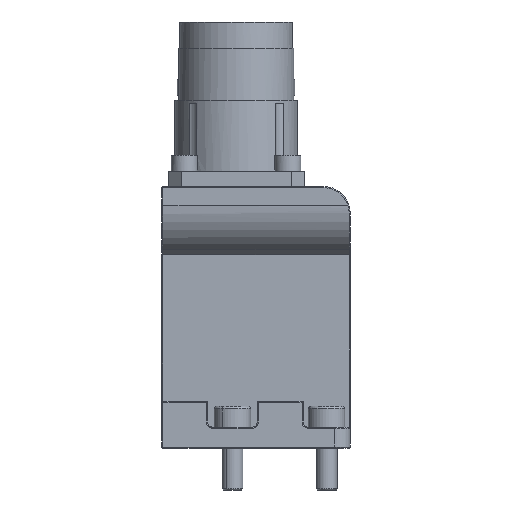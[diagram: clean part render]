
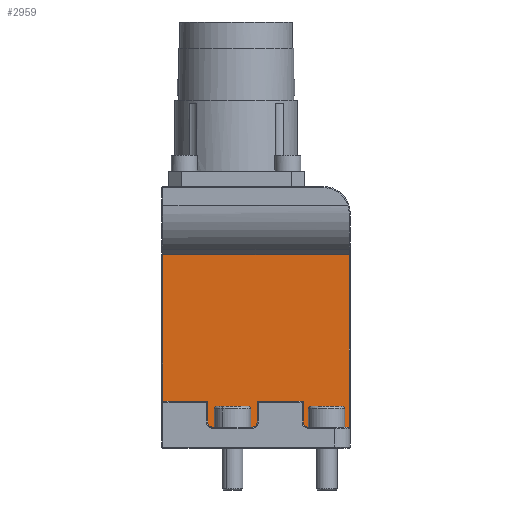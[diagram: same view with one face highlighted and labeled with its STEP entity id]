
A CAD part, left-side view. The second image highlights one B-rep face of the part: STEP entity #2959.
In plain terms, the highlighted planar face has unit normal (-1, 0, 0).
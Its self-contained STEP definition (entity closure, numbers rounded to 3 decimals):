
#300 = CARTESIAN_POINT ( 'NONE',  ( -21.25, -9., 4. ) ) ;
#442 = ORIENTED_EDGE ( 'NONE', *, *, #18668, .T. ) ;
#741 = DIRECTION ( 'NONE',  ( 0., 1., 0. ) ) ;
#903 = CARTESIAN_POINT ( 'NONE',  ( -21.25, 0.75, 5. ) ) ;
#1092 = LINE ( 'NONE', #13797, #22974 ) ;
#1339 = VERTEX_POINT ( 'NONE', #15263 ) ;
#1408 = CARTESIAN_POINT ( 'NONE',  ( -21.25, -0.25, 5. ) ) ;
#1697 = AXIS2_PLACEMENT_3D ( 'NONE', #7514, #9295, #5570 ) ;
#1710 = VECTOR ( 'NONE', #12583, 1000. ) ;
#1764 = ORIENTED_EDGE ( 'NONE', *, *, #17335, .F. ) ;
#2622 = VECTOR ( 'NONE', #13122, 1000. ) ;
#2688 = VERTEX_POINT ( 'NONE', #12433 ) ;
#2769 = DIRECTION ( 'NONE',  ( 0., 0., -1. ) ) ;
#2959 = ADVANCED_FACE ( 'NONE', ( #14393 ), #18844, .F. ) ;
#3326 = EDGE_CURVE ( 'NONE', #22455, #20741, #18157, .T. ) ;
#3343 = CARTESIAN_POINT ( 'NONE',  ( -21.25, -17.8, 4. ) ) ;
#3370 = CARTESIAN_POINT ( 'NONE',  ( -21.25, 9.25, 9. ) ) ;
#3445 = DIRECTION ( 'NONE',  ( 0., 0., 1. ) ) ;
#3549 = AXIS2_PLACEMENT_3D ( 'NONE', #903, #21522, #14039 ) ;
#3809 = LINE ( 'NONE', #300, #2622 ) ;
#3816 = DIRECTION ( 'NONE',  ( 0., 0., 1. ) ) ;
#3989 = DIRECTION ( 'NONE',  ( 0., 1., 0. ) ) ;
#5153 = CARTESIAN_POINT ( 'NONE',  ( -21.25, 9.25, 4. ) ) ;
#5270 = ORIENTED_EDGE ( 'NONE', *, *, #3326, .F. ) ;
#5343 = DIRECTION ( 'NONE',  ( 0., 0., 1. ) ) ;
#5410 = CARTESIAN_POINT ( 'NONE',  ( -21.25, -9., 5. ) ) ;
#5570 = DIRECTION ( 'NONE',  ( 0., 0., -1. ) ) ;
#5597 = ORIENTED_EDGE ( 'NONE', *, *, #23869, .T. ) ;
#5615 = VERTEX_POINT ( 'NONE', #19560 ) ;
#5829 = LINE ( 'NONE', #22733, #1710 ) ;
#5896 = AXIS2_PLACEMENT_3D ( 'NONE', #17792, #10945, #21879 ) ;
#6089 = DIRECTION ( 'NONE',  ( 0., 1., 0. ) ) ;
#6744 = VECTOR ( 'NONE', #3989, 1000. ) ;
#6830 = VECTOR ( 'NONE', #6089, 1000. ) ;
#7028 = VERTEX_POINT ( 'NONE', #16269 ) ;
#7339 = EDGE_LOOP ( 'NONE', ( #9176, #8011, #14028, #5270, #5597, #19746, #442, #7728, #10646, #18094, #18837, #1764, #23214 ) ) ;
#7514 = CARTESIAN_POINT ( 'NONE',  ( -21.25, -10., 5. ) ) ;
#7536 = CARTESIAN_POINT ( 'NONE',  ( -21.25, 17.8, 37. ) ) ;
#7558 = CARTESIAN_POINT ( 'NONE',  ( -21.25, -9., 4. ) ) ;
#7695 = DIRECTION ( 'NONE',  ( 1., 0., 0. ) ) ;
#7728 = ORIENTED_EDGE ( 'NONE', *, *, #20753, .T. ) ;
#7771 = VECTOR ( 'NONE', #741, 1000. ) ;
#8011 = ORIENTED_EDGE ( 'NONE', *, *, #18743, .T. ) ;
#8513 = VECTOR ( 'NONE', #3445, 1000. ) ;
#9088 = CARTESIAN_POINT ( 'NONE',  ( -21.25, -9., 9. ) ) ;
#9176 = ORIENTED_EDGE ( 'NONE', *, *, #14870, .T. ) ;
#9295 = DIRECTION ( 'NONE',  ( -1., 0., 0. ) ) ;
#9565 = DIRECTION ( 'NONE',  ( 0., 0., -1. ) ) ;
#9945 = LINE ( 'NONE', #14978, #6744 ) ;
#10287 = CARTESIAN_POINT ( 'NONE',  ( -21.25, -18., 9. ) ) ;
#10393 = VERTEX_POINT ( 'NONE', #1408 ) ;
#10492 = VERTEX_POINT ( 'NONE', #7536 ) ;
#10646 = ORIENTED_EDGE ( 'NONE', *, *, #14214, .F. ) ;
#10751 = AXIS2_PLACEMENT_3D ( 'NONE', #20388, #7695, #9565 ) ;
#10775 = CARTESIAN_POINT ( 'NONE',  ( -21.25, -17.8, 9. ) ) ;
#10945 = DIRECTION ( 'NONE',  ( -1., 0., 0. ) ) ;
#11469 = CARTESIAN_POINT ( 'NONE',  ( -21.25, -17.8, 37. ) ) ;
#11793 = EDGE_CURVE ( 'NONE', #15393, #2688, #14695, .T. ) ;
#12433 = CARTESIAN_POINT ( 'NONE',  ( -21.25, 8.25, 4. ) ) ;
#12453 = LINE ( 'NONE', #10287, #7771 ) ;
#12583 = DIRECTION ( 'NONE',  ( 0., 1., 0. ) ) ;
#12611 = CIRCLE ( 'NONE', #1697, 1. ) ;
#13111 = VERTEX_POINT ( 'NONE', #11469 ) ;
#13122 = DIRECTION ( 'NONE',  ( 0., 1., 0. ) ) ;
#13231 = VECTOR ( 'NONE', #22780, 1000. ) ;
#13436 = EDGE_CURVE ( 'NONE', #21375, #13111, #15809, .T. ) ;
#13595 = EDGE_CURVE ( 'NONE', #18392, #1339, #12611, .T. ) ;
#13797 = CARTESIAN_POINT ( 'NONE',  ( -21.25, 17.8, 9. ) ) ;
#14028 = ORIENTED_EDGE ( 'NONE', *, *, #24125, .F. ) ;
#14039 = DIRECTION ( 'NONE',  ( 0., 0., -1. ) ) ;
#14214 = EDGE_CURVE ( 'NONE', #20291, #7028, #9945, .T. ) ;
#14225 = CIRCLE ( 'NONE', #3549, 1. ) ;
#14393 = FACE_OUTER_BOUND ( 'NONE', #7339, .T. ) ;
#14695 = LINE ( 'NONE', #19354, #6830 ) ;
#14870 = EDGE_CURVE ( 'NONE', #13111, #10492, #5829, .T. ) ;
#14886 = CIRCLE ( 'NONE', #5896, 1. ) ;
#14978 = CARTESIAN_POINT ( 'NONE',  ( -21.25, -18., 9. ) ) ;
#15263 = CARTESIAN_POINT ( 'NONE',  ( -21.25, -10., 4. ) ) ;
#15393 = VERTEX_POINT ( 'NONE', #17828 ) ;
#15809 = LINE ( 'NONE', #10775, #8513 ) ;
#16269 = CARTESIAN_POINT ( 'NONE',  ( -21.25, -0.25, 9. ) ) ;
#17327 = VECTOR ( 'NONE', #5343, 1000. ) ;
#17335 = EDGE_CURVE ( 'NONE', #21375, #1339, #3809, .T. ) ;
#17792 = CARTESIAN_POINT ( 'NONE',  ( -21.25, 8.25, 5. ) ) ;
#17828 = CARTESIAN_POINT ( 'NONE',  ( -21.25, 0.75, 4. ) ) ;
#17926 = EDGE_CURVE ( 'NONE', #18392, #20291, #19793, .T. ) ;
#18094 = ORIENTED_EDGE ( 'NONE', *, *, #17926, .F. ) ;
#18157 = LINE ( 'NONE', #5153, #13231 ) ;
#18392 = VERTEX_POINT ( 'NONE', #5410 ) ;
#18668 = EDGE_CURVE ( 'NONE', #15393, #10393, #14225, .T. ) ;
#18743 = EDGE_CURVE ( 'NONE', #10492, #5615, #1092, .T. ) ;
#18837 = ORIENTED_EDGE ( 'NONE', *, *, #13595, .T. ) ;
#18844 = PLANE ( 'NONE',  #10751 ) ;
#19354 = CARTESIAN_POINT ( 'NONE',  ( -21.25, -0.25, 4. ) ) ;
#19560 = CARTESIAN_POINT ( 'NONE',  ( -21.25, 17.8, 9. ) ) ;
#19746 = ORIENTED_EDGE ( 'NONE', *, *, #11793, .F. ) ;
#19793 = LINE ( 'NONE', #7558, #23881 ) ;
#20213 = CARTESIAN_POINT ( 'NONE',  ( -21.25, 9.25, 5. ) ) ;
#20291 = VERTEX_POINT ( 'NONE', #9088 ) ;
#20388 = CARTESIAN_POINT ( 'NONE',  ( -21.25, -18., 9. ) ) ;
#20741 = VERTEX_POINT ( 'NONE', #3370 ) ;
#20753 = EDGE_CURVE ( 'NONE', #10393, #7028, #22298, .T. ) ;
#21375 = VERTEX_POINT ( 'NONE', #3343 ) ;
#21522 = DIRECTION ( 'NONE',  ( -1., 0., 0. ) ) ;
#21879 = DIRECTION ( 'NONE',  ( 0., 0., -1. ) ) ;
#22021 = CARTESIAN_POINT ( 'NONE',  ( -21.25, -0.25, 4. ) ) ;
#22298 = LINE ( 'NONE', #22021, #17327 ) ;
#22455 = VERTEX_POINT ( 'NONE', #20213 ) ;
#22733 = CARTESIAN_POINT ( 'NONE',  ( -21.25, -18., 37. ) ) ;
#22780 = DIRECTION ( 'NONE',  ( 0., 0., 1. ) ) ;
#22974 = VECTOR ( 'NONE', #2769, 1000. ) ;
#23214 = ORIENTED_EDGE ( 'NONE', *, *, #13436, .T. ) ;
#23869 = EDGE_CURVE ( 'NONE', #22455, #2688, #14886, .T. ) ;
#23881 = VECTOR ( 'NONE', #3816, 1000. ) ;
#24125 = EDGE_CURVE ( 'NONE', #20741, #5615, #12453, .T. ) ;
